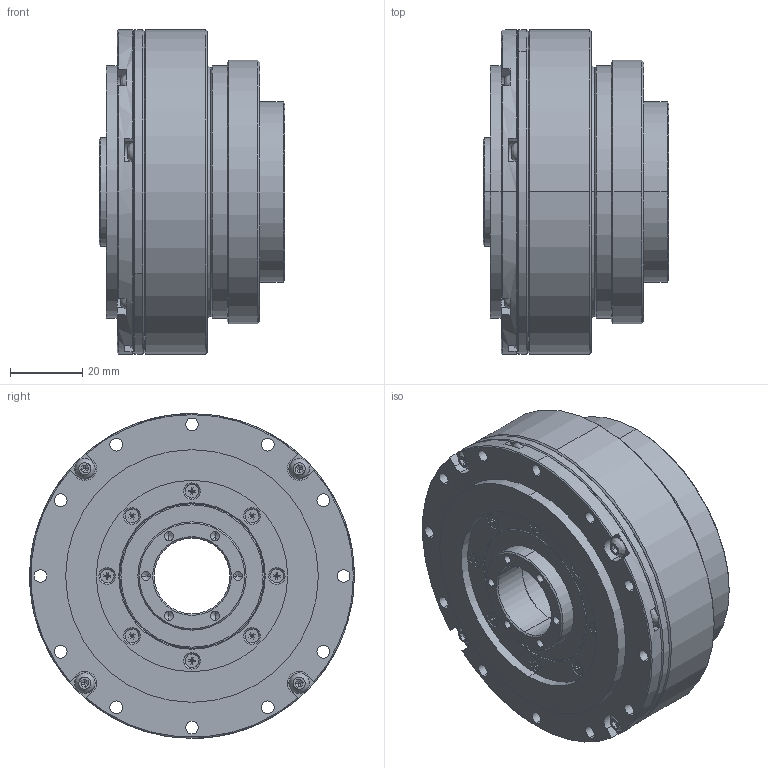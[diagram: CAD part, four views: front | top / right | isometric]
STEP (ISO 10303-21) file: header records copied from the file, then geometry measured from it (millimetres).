
FILE_DESCRIPTION (( 'STEP AP203' ), '1' );
FILE_NAME ('LHSG-20-XXX-CL-III.step', '2025-01-07T07:25:09', ( '' ), ( '' ), 'SwSTEP 2.0', 'SolidWorks 2023', '' );
FILE_SCHEMA (( 'CONFIG_CONTROL_DESIGN' ));
Products named in the file (1): LHSG-20-XXX-CL-III
Bounding box: 51.5 x 90 x 90 mm (x, y, z)
Volume: 173528.9 mm3; surface area: 138533.6 mm2
Topology: 61 solids, 61 shells, 1944 faces, 5301 edges, 3263 vertices
Faces by surface type: cylinder 606, bspline 516, plane 514, cone 308
Entity records: 73682 total; most frequent: CARTESIAN_POINT 27631, ORIENTED_EDGE 10178, DIRECTION 9028, EDGE_CURVE 5089, AXIS2_PLACEMENT_3D 3746, VERTEX_POINT 3263, CIRCLE 2317, EDGE_LOOP 2312
